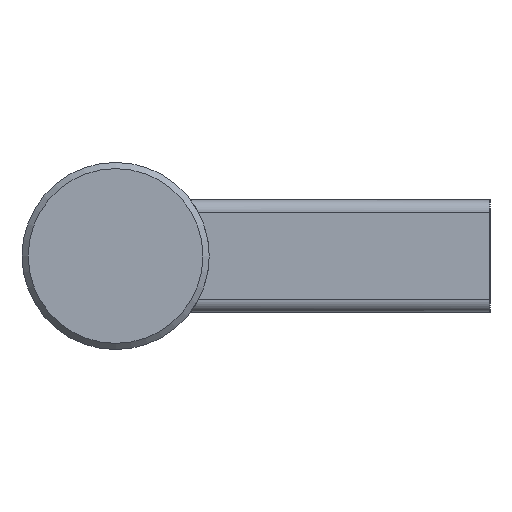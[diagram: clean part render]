
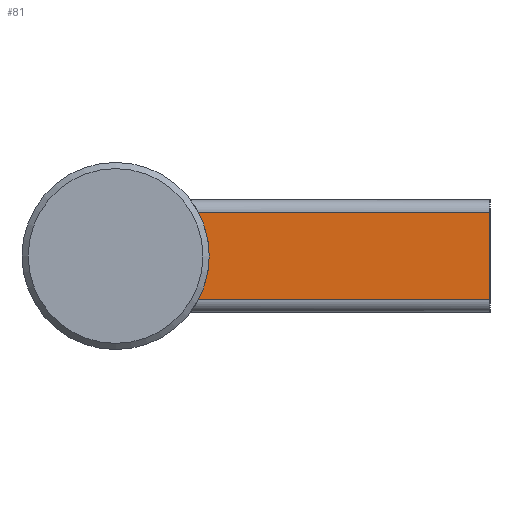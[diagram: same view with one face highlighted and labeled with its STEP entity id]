
A CAD part, left-side view. The second image highlights one B-rep face of the part: STEP entity #81.
In plain terms, the highlighted planar face has unit normal (-1, 0, 0).
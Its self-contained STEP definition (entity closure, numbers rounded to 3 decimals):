
#81 = ADVANCED_FACE( '', ( #121 ), #122, .F. );
#121 = FACE_OUTER_BOUND( '', #186, .T. );
#122 = PLANE( '', #187 );
#186 = EDGE_LOOP( '', ( #280, #281, #282, #283 ) );
#187 = AXIS2_PLACEMENT_3D( '', #284, #285, #286 );
#280 = ORIENTED_EDGE( '', *, *, #453, .F. );
#281 = ORIENTED_EDGE( '', *, *, #444, .T. );
#282 = ORIENTED_EDGE( '', *, *, #455, .T. );
#283 = ORIENTED_EDGE( '', *, *, #456, .T. );
#284 = CARTESIAN_POINT( '', ( -165., 60., -7. ) );
#285 = DIRECTION( '', ( 1., 0., 0. ) );
#286 = DIRECTION( '', ( 0., 0., -1. ) );
#444 = EDGE_CURVE( '', #517, #514, #518, .T. );
#453 = EDGE_CURVE( '', #517, #534, #535, .T. );
#455 = EDGE_CURVE( '', #514, #537, #538, .T. );
#456 = EDGE_CURVE( '', #537, #534, #539, .T. );
#514 = VERTEX_POINT( '', #668 );
#517 = VERTEX_POINT( '', #686 );
#518 = CIRCLE( '', #687, 15. );
#534 = VERTEX_POINT( '', #747 );
#535 = LINE( '', #748, #749 );
#537 = VERTEX_POINT( '', #751 );
#538 = LINE( '', #752, #753 );
#539 = LINE( '', #754, #755 );
#668 = CARTESIAN_POINT( '', ( -165., 46.734, -7. ) );
#686 = CARTESIAN_POINT( '', ( -165., 46.734, 7. ) );
#687 = AXIS2_PLACEMENT_3D( '', #844, #845, #846 );
#747 = CARTESIAN_POINT( '', ( -165., 0., 7. ) );
#748 = CARTESIAN_POINT( '', ( -165., 60., 7. ) );
#749 = VECTOR( '', #856, 1000. );
#751 = CARTESIAN_POINT( '', ( -165., 0., -7. ) );
#752 = CARTESIAN_POINT( '', ( -165., 60., -7. ) );
#753 = VECTOR( '', #860, 1000. );
#754 = CARTESIAN_POINT( '', ( -165., 0., -7. ) );
#755 = VECTOR( '', #861, 1000. );
#844 = CARTESIAN_POINT( '', ( -165., 60., 0. ) );
#845 = DIRECTION( '', ( 1., 0., 0. ) );
#846 = DIRECTION( '', ( 0., 0., -1. ) );
#856 = DIRECTION( '', ( 0., -1., 0. ) );
#860 = DIRECTION( '', ( 0., -1., 0. ) );
#861 = DIRECTION( '', ( 0., 0., 1. ) );
